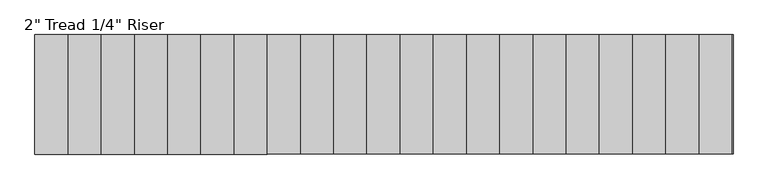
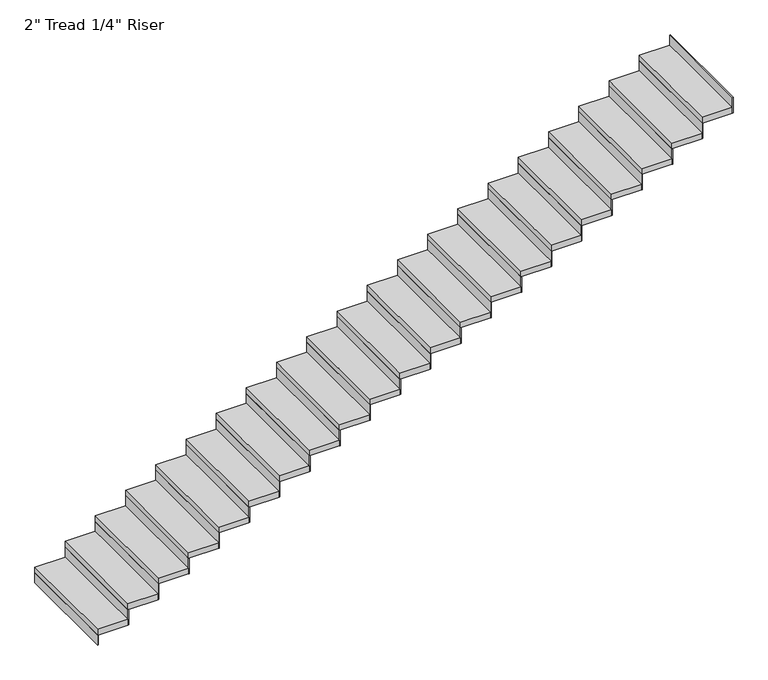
"""IFC4 building model written with IfcOpenShell, lengths in millimetres: stair flight geometry."""

from ifc_helpers import new_model, si_unit, frame, origin, origin_with_axes, place, context, project, spatial, polyline, outline, extrude, source, transform, mapped, element, save


def stair_flight_4dab80b4(model_context):
    return source(origin(), model_context, "Body", "SweptSolid", [
        extrude(outline(polyline([(-14491.7664794, 15846.0395941), (-14498.1164794, 15846.0395941), (-14498.1164794, 16760.4395941), (-14491.7664794, 16760.4395941), (-14491.7664794, 15846.0395941)])), origin_with_axes(), (0.0, 0.0, 1.0), 87.7454545),
        extrude(outline(polyline([(-14244.1164794, 16760.4395941), (-14244.1164794, 15846.0395941), (-14498.1164794, 15846.0395941), (-14498.1164794, 16760.4395941), (-14244.1164794, 16760.4395941)])), frame((0.0, 0.0, 87.7454545), z_axis=(0.0, 0.0, 1.0), x_axis=(1.0, 0.0, 0.0)), (0.0, 0.0, 1.0), 50.8),
        extrude(outline(polyline([(-14237.7664794, 15846.0395941), (-14244.1164794, 15846.0395941), (-14244.1164794, 16760.4395941), (-14237.7664794, 16760.4395941), (-14237.7664794, 15846.0395941)])), frame((0.0, 0.0, 87.7454545), z_axis=(0.0, 0.0, 1.0), x_axis=(1.0, 0.0, 0.0)), (0.0, 0.0, 1.0), 138.5454545),
        extrude(outline(polyline([(-13990.1164794, 16760.4395941), (-13990.1164794, 15846.0395941), (-14244.1164794, 15846.0395941), (-14244.1164794, 16760.4395941), (-13990.1164794, 16760.4395941)])), frame((0.0, 0.0, 226.2909091), z_axis=(0.0, 0.0, 1.0), x_axis=(1.0, 0.0, 0.0)), (0.0, 0.0, 1.0), 50.8),
        extrude(outline(polyline([(-13983.7664794, 15846.0395941), (-13990.1164794, 15846.0395941), (-13990.1164794, 16760.4395941), (-13983.7664794, 16760.4395941), (-13983.7664794, 15846.0395941)])), frame((0.0, 0.0, 226.2909091), z_axis=(0.0, 0.0, 1.0), x_axis=(1.0, 0.0, 0.0)), (0.0, 0.0, 1.0), 138.5454545),
        extrude(outline(polyline([(-13736.1164794, 16760.4395941), (-13736.1164794, 15846.0395941), (-13990.1164794, 15846.0395941), (-13990.1164794, 16760.4395941), (-13736.1164794, 16760.4395941)])), frame((0.0, 0.0, 364.8363636), z_axis=(0.0, 0.0, 1.0), x_axis=(1.0, 0.0, 0.0)), (0.0, 0.0, 1.0), 50.8),
        extrude(outline(polyline([(-13729.7664794, 15846.0395941), (-13736.1164794, 15846.0395941), (-13736.1164794, 16760.4395941), (-13729.7664794, 16760.4395941), (-13729.7664794, 15846.0395941)])), frame((0.0, 0.0, 364.8363636), z_axis=(0.0, 0.0, 1.0), x_axis=(1.0, 0.0, 0.0)), (0.0, 0.0, 1.0), 138.5454545),
        extrude(outline(polyline([(-13482.1164794, 16760.4395941), (-13482.1164794, 15846.0395941), (-13736.1164794, 15846.0395941), (-13736.1164794, 16760.4395941), (-13482.1164794, 16760.4395941)])), frame((0.0, 0.0, 503.3818182), z_axis=(0.0, 0.0, 1.0), x_axis=(1.0, 0.0, 0.0)), (0.0, 0.0, 1.0), 50.8),
        extrude(outline(polyline([(-13475.7664794, 15846.0395941), (-13482.1164794, 15846.0395941), (-13482.1164794, 16760.4395941), (-13475.7664794, 16760.4395941), (-13475.7664794, 15846.0395941)])), frame((0.0, 0.0, 503.3818182), z_axis=(0.0, 0.0, 1.0), x_axis=(1.0, 0.0, 0.0)), (0.0, 0.0, 1.0), 138.5454545),
        extrude(outline(polyline([(-13228.1164794, 16760.4395941), (-13228.1164794, 15846.0395941), (-13482.1164794, 15846.0395941), (-13482.1164794, 16760.4395941), (-13228.1164794, 16760.4395941)])), frame((0.0, 0.0, 641.9272727), z_axis=(0.0, 0.0, 1.0), x_axis=(1.0, 0.0, 0.0)), (0.0, 0.0, 1.0), 50.8),
        extrude(outline(polyline([(-13221.7664794, 15846.0395941), (-13228.1164794, 15846.0395941), (-13228.1164794, 16760.4395941), (-13221.7664794, 16760.4395941), (-13221.7664794, 15846.0395941)])), frame((0.0, 0.0, 641.9272727), z_axis=(0.0, 0.0, 1.0), x_axis=(1.0, 0.0, 0.0)), (0.0, 0.0, 1.0), 138.5454545),
        extrude(outline(polyline([(-12974.1164794, 16760.4395941), (-12974.1164794, 15846.0395941), (-13228.1164794, 15846.0395941), (-13228.1164794, 16760.4395941), (-12974.1164794, 16760.4395941)])), frame((0.0, 0.0, 780.4727273), z_axis=(0.0, 0.0, 1.0), x_axis=(1.0, 0.0, 0.0)), (0.0, 0.0, 1.0), 50.8),
        extrude(outline(polyline([(-12967.7664794, 15846.0395941), (-12974.1164794, 15846.0395941), (-12974.1164794, 16760.4395941), (-12967.7664794, 16760.4395941), (-12967.7664794, 15846.0395941)])), frame((0.0, 0.0, 780.4727273), z_axis=(0.0, 0.0, 1.0), x_axis=(1.0, 0.0, 0.0)), (0.0, 0.0, 1.0), 138.5454545),
        extrude(outline(polyline([(-12720.1164794, 16760.4395941), (-12720.1164794, 15846.0395941), (-12974.1164794, 15846.0395941), (-12974.1164794, 16760.4395941), (-12720.1164794, 16760.4395941)])), frame((0.0, 0.0, 919.0181818), z_axis=(0.0, 0.0, 1.0), x_axis=(1.0, 0.0, 0.0)), (0.0, 0.0, 1.0), 50.8),
        extrude(outline(polyline([(-12713.7664794, 15846.0395941), (-12720.1164794, 15846.0395941), (-12720.1164794, 16760.4395941), (-12713.7664794, 16760.4395941), (-12713.7664794, 15846.0395941)])), frame((0.0, 0.0, 919.0181818), z_axis=(0.0, 0.0, 1.0), x_axis=(1.0, 0.0, 0.0)), (0.0, 0.0, 1.0), 138.5454545),
        extrude(outline(polyline([(-12466.1164794, 16760.4395941), (-12466.1164794, 15846.0395941), (-12720.1164794, 15846.0395941), (-12720.1164794, 16760.4395941), (-12466.1164794, 16760.4395941)])), frame((0.0, 0.0, 1057.5636364), z_axis=(0.0, 0.0, 1.0), x_axis=(1.0, 0.0, 0.0)), (0.0, 0.0, 1.0), 50.8),
        extrude(outline(polyline([(-12459.7664794, 15846.0395941), (-12466.1164794, 15846.0395941), (-12466.1164794, 16760.4395941), (-12459.7664794, 16760.4395941), (-12459.7664794, 15846.0395941)])), frame((0.0, 0.0, 1057.5636364), z_axis=(0.0, 0.0, 1.0), x_axis=(1.0, 0.0, 0.0)), (0.0, 0.0, 1.0), 138.5454545),
        extrude(outline(polyline([(-12212.1164794, 16760.4395941), (-12212.1164794, 15846.0395941), (-12466.1164794, 15846.0395941), (-12466.1164794, 16760.4395941), (-12212.1164794, 16760.4395941)])), frame((0.0, 0.0, 1196.1090909), z_axis=(0.0, 0.0, 1.0), x_axis=(1.0, 0.0, 0.0)), (0.0, 0.0, 1.0), 50.8),
        extrude(outline(polyline([(-12205.7664794, 15846.0395941), (-12212.1164794, 15846.0395941), (-12212.1164794, 16760.4395941), (-12205.7664794, 16760.4395941), (-12205.7664794, 15846.0395941)])), frame((0.0, 0.0, 1196.1090909), z_axis=(0.0, 0.0, 1.0), x_axis=(1.0, 0.0, 0.0)), (0.0, 0.0, 1.0), 138.5454545),
        extrude(outline(polyline([(-11958.1164794, 16760.4395941), (-11958.1164794, 15846.0395941), (-12212.1164794, 15846.0395941), (-12212.1164794, 16760.4395941), (-11958.1164794, 16760.4395941)])), frame((0.0, 0.0, 1334.6545455), z_axis=(0.0, 0.0, 1.0), x_axis=(1.0, 0.0, 0.0)), (0.0, 0.0, 1.0), 50.8),
        extrude(outline(polyline([(-11951.7664794, 15846.0395941), (-11958.1164794, 15846.0395941), (-11958.1164794, 16760.4395941), (-11951.7664794, 16760.4395941), (-11951.7664794, 15846.0395941)])), frame((0.0, 0.0, 1334.6545455), z_axis=(0.0, 0.0, 1.0), x_axis=(1.0, 0.0, 0.0)), (0.0, 0.0, 1.0), 138.5454545),
        extrude(outline(polyline([(-11704.1164794, 16760.4395941), (-11704.1164794, 15846.0395941), (-11958.1164794, 15846.0395941), (-11958.1164794, 16760.4395941), (-11704.1164794, 16760.4395941)])), frame((0.0, 0.0, 1473.2), z_axis=(0.0, 0.0, 1.0), x_axis=(1.0, 0.0, 0.0)), (0.0, 0.0, 1.0), 50.8),
        extrude(outline(polyline([(-11697.7664794, 15846.0395941), (-11704.1164794, 15846.0395941), (-11704.1164794, 16760.4395941), (-11697.7664794, 16760.4395941), (-11697.7664794, 15846.0395941)])), frame((0.0, 0.0, 1473.2), z_axis=(0.0, 0.0, 1.0), x_axis=(1.0, 0.0, 0.0)), (0.0, 0.0, 1.0), 138.5454545),
        extrude(outline(polyline([(-11450.1164794, 16760.4395941), (-11450.1164794, 15846.0395941), (-11704.1164794, 15846.0395941), (-11704.1164794, 16760.4395941), (-11450.1164794, 16760.4395941)])), frame((0.0, 0.0, 1611.7454545), z_axis=(0.0, 0.0, 1.0), x_axis=(1.0, 0.0, 0.0)), (0.0, 0.0, 1.0), 50.8),
        extrude(outline(polyline([(-11443.7664794, 15846.0395941), (-11450.1164794, 15846.0395941), (-11450.1164794, 16760.4395941), (-11443.7664794, 16760.4395941), (-11443.7664794, 15846.0395941)])), frame((0.0, 0.0, 1611.7454545), z_axis=(0.0, 0.0, 1.0), x_axis=(1.0, 0.0, 0.0)), (0.0, 0.0, 1.0), 138.5454545),
        extrude(outline(polyline([(-11196.1164794, 16760.4395941), (-11196.1164794, 15846.0395941), (-11450.1164794, 15846.0395941), (-11450.1164794, 16760.4395941), (-11196.1164794, 16760.4395941)])), frame((0.0, 0.0, 1750.2909091), z_axis=(0.0, 0.0, 1.0), x_axis=(1.0, 0.0, 0.0)), (0.0, 0.0, 1.0), 50.8),
        extrude(outline(polyline([(-11189.7664794, 15846.0395941), (-11196.1164794, 15846.0395941), (-11196.1164794, 16760.4395941), (-11189.7664794, 16760.4395941), (-11189.7664794, 15846.0395941)])), frame((0.0, 0.0, 1750.2909091), z_axis=(0.0, 0.0, 1.0), x_axis=(1.0, 0.0, 0.0)), (0.0, 0.0, 1.0), 138.5454545),
        extrude(outline(polyline([(-10942.1164794, 16760.4395941), (-10942.1164794, 15846.0395941), (-11196.1164794, 15846.0395941), (-11196.1164794, 16760.4395941), (-10942.1164794, 16760.4395941)])), frame((0.0, 0.0, 1888.8363636), z_axis=(0.0, 0.0, 1.0), x_axis=(1.0, 0.0, 0.0)), (0.0, 0.0, 1.0), 50.8),
        extrude(outline(polyline([(-10935.7664794, 15846.0395941), (-10942.1164794, 15846.0395941), (-10942.1164794, 16760.4395941), (-10935.7664794, 16760.4395941), (-10935.7664794, 15846.0395941)])), frame((0.0, 0.0, 1888.8363636), z_axis=(0.0, 0.0, 1.0), x_axis=(1.0, 0.0, 0.0)), (0.0, 0.0, 1.0), 138.5454545),
        extrude(outline(polyline([(-10688.1164794, 16760.4395941), (-10688.1164794, 15846.0395941), (-10942.1164794, 15846.0395941), (-10942.1164794, 16760.4395941), (-10688.1164794, 16760.4395941)])), frame((0.0, 0.0, 2027.3818182), z_axis=(0.0, 0.0, 1.0), x_axis=(1.0, 0.0, 0.0)), (0.0, 0.0, 1.0), 50.8),
        extrude(outline(polyline([(-10681.7664794, 15846.0395941), (-10688.1164794, 15846.0395941), (-10688.1164794, 16760.4395941), (-10681.7664794, 16760.4395941), (-10681.7664794, 15846.0395941)])), frame((0.0, 0.0, 2027.3818182), z_axis=(0.0, 0.0, 1.0), x_axis=(1.0, 0.0, 0.0)), (0.0, 0.0, 1.0), 138.5454545),
        extrude(outline(polyline([(-10434.1164794, 16760.4395941), (-10434.1164794, 15846.0395941), (-10688.1164794, 15846.0395941), (-10688.1164794, 16760.4395941), (-10434.1164794, 16760.4395941)])), frame((0.0, 0.0, 2165.9272727), z_axis=(0.0, 0.0, 1.0), x_axis=(1.0, 0.0, 0.0)), (0.0, 0.0, 1.0), 50.8),
        extrude(outline(polyline([(-10427.7664794, 15846.0395941), (-10434.1164794, 15846.0395941), (-10434.1164794, 16760.4395941), (-10427.7664794, 16760.4395941), (-10427.7664794, 15846.0395941)])), frame((0.0, 0.0, 2165.9272727), z_axis=(0.0, 0.0, 1.0), x_axis=(1.0, 0.0, 0.0)), (0.0, 0.0, 1.0), 138.5454545),
        extrude(outline(polyline([(-10180.1164794, 16760.4395941), (-10180.1164794, 15846.0395941), (-10434.1164794, 15846.0395941), (-10434.1164794, 16760.4395941), (-10180.1164794, 16760.4395941)])), frame((0.0, 0.0, 2304.4727273), z_axis=(0.0, 0.0, 1.0), x_axis=(1.0, 0.0, 0.0)), (0.0, 0.0, 1.0), 50.8),
        extrude(outline(polyline([(-10173.7664794, 15846.0395941), (-10180.1164794, 15846.0395941), (-10180.1164794, 16760.4395941), (-10173.7664794, 16760.4395941), (-10173.7664794, 15846.0395941)])), frame((0.0, 0.0, 2304.4727273), z_axis=(0.0, 0.0, 1.0), x_axis=(1.0, 0.0, 0.0)), (0.0, 0.0, 1.0), 138.5454545),
        extrude(outline(polyline([(-9926.1164794, 16760.4395941), (-9926.1164794, 15846.0395941), (-10180.1164794, 15846.0395941), (-10180.1164794, 16760.4395941), (-9926.1164794, 16760.4395941)])), frame((0.0, 0.0, 2443.0181818), z_axis=(0.0, 0.0, 1.0), x_axis=(1.0, 0.0, 0.0)), (0.0, 0.0, 1.0), 50.8),
        extrude(outline(polyline([(-9919.7664794, 15846.0395941), (-9926.1164794, 15846.0395941), (-9926.1164794, 16760.4395941), (-9919.7664794, 16760.4395941), (-9919.7664794, 15846.0395941)])), frame((0.0, 0.0, 2443.0181818), z_axis=(0.0, 0.0, 1.0), x_axis=(1.0, 0.0, 0.0)), (0.0, 0.0, 1.0), 138.5454545),
        extrude(outline(polyline([(-9672.1164794, 16760.4395941), (-9672.1164794, 15846.0395941), (-9926.1164794, 15846.0395941), (-9926.1164794, 16760.4395941), (-9672.1164794, 16760.4395941)])), frame((0.0, 0.0, 2581.5636364), z_axis=(0.0, 0.0, 1.0), x_axis=(1.0, 0.0, 0.0)), (0.0, 0.0, 1.0), 50.8),
        extrude(outline(polyline([(-9665.7664794, 15846.0395941), (-9672.1164794, 15846.0395941), (-9672.1164794, 16760.4395941), (-9665.7664794, 16760.4395941), (-9665.7664794, 15846.0395941)])), frame((0.0, 0.0, 2581.5636364), z_axis=(0.0, 0.0, 1.0), x_axis=(1.0, 0.0, 0.0)), (0.0, 0.0, 1.0), 138.5454545),
        extrude(outline(polyline([(-9418.1164794, 16760.4395941), (-9418.1164794, 15846.0395941), (-9672.1164794, 15846.0395941), (-9672.1164794, 16760.4395941), (-9418.1164794, 16760.4395941)])), frame((0.0, 0.0, 2720.1090909), z_axis=(0.0, 0.0, 1.0), x_axis=(1.0, 0.0, 0.0)), (0.0, 0.0, 1.0), 50.8),
        extrude(outline(polyline([(-9411.7664794, 15846.0395941), (-9418.1164794, 15846.0395941), (-9418.1164794, 16760.4395941), (-9411.7664794, 16760.4395941), (-9411.7664794, 15846.0395941)])), frame((0.0, 0.0, 2720.1090909), z_axis=(0.0, 0.0, 1.0), x_axis=(1.0, 0.0, 0.0)), (0.0, 0.0, 1.0), 138.5454545),
        extrude(outline(polyline([(-9157.7664794, 15846.0395941), (-9164.1164794, 15846.0395941), (-9164.1164794, 16760.4395941), (-9157.7664794, 16760.4395941), (-9157.7664794, 15846.0395941)])), frame((0.0, 0.0, 2858.6545455), z_axis=(0.0, 0.0, 1.0), x_axis=(1.0, 0.0, 0.0)), (0.0, 0.0, 1.0), 138.5454545),
        extrude(outline(polyline([(-9164.1164794, 16760.4395941), (-9164.1164794, 15846.0395941), (-9418.1164794, 15846.0395941), (-9418.1164794, 16760.4395941), (-9164.1164794, 16760.4395941)])), frame((0.0, 0.0, 2858.6545455), z_axis=(0.0, 0.0, 1.0), x_axis=(1.0, 0.0, 0.0)), (0.0, 0.0, 1.0), 50.8),
    ])


if __name__ == "__main__":
    model = new_model("IFC4")
    model_context = context("Model", 3, world=origin())
    ifc_project = project(units=[si_unit("LENGTHUNIT", "METRE", prefix="MILLI")], contexts=[model_context])
    site = spatial("IfcSite", under=ifc_project)
    building = spatial("IfcBuilding", under=site)
    placement = place(None, origin())
    stair_flight_shape = stair_flight_4dab80b4(model_context)
    element("IfcStairFlight", 1, ObjectType="2\" Tread 1/4\" Riser", at=placement, inside=building, context=model_context, shape_type="MappedRepresentation", body=[
        mapped(stair_flight_shape, transform((0.0, 0.0, 0.0), x_axis=(1.0, 0.0, 0.0), y_axis=(0.0, 1.0, 0.0), z_axis=(0.0, 0.0, 1.0))),
    ])
    save(model, "model.ifc")
